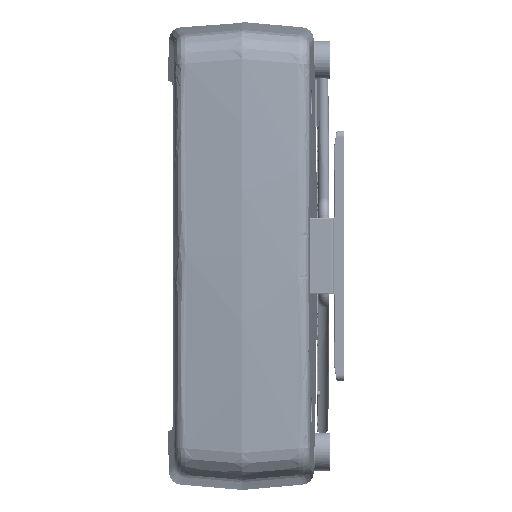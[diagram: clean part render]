
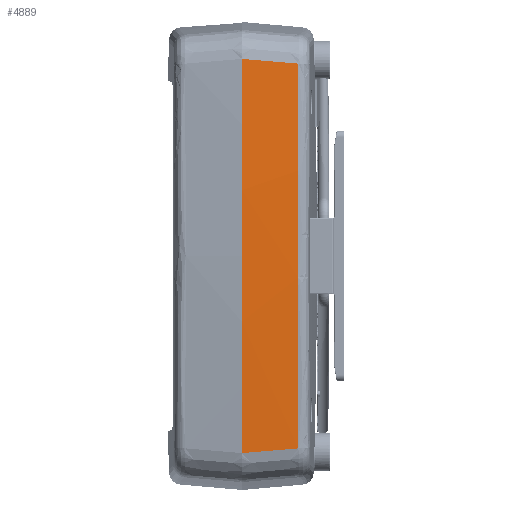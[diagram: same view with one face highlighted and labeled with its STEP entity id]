
A CAD part, left-side view. The second image highlights one B-rep face of the part: STEP entity #4889.
In plain terms, the highlighted conical face has half-angle 5 degrees and reference radius 762 mm.
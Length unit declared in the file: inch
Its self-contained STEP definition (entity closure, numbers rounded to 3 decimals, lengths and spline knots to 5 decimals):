
#4889 = ADVANCED_FACE ( 'NONE', ( #266723 ), #325073, .T. ) ;
#18995 = CARTESIAN_POINT ( 'NONE',  ( -2.96911, -0.14894, 1.56178 ) ) ;
#26725 = CIRCLE ( 'NONE', #132712, 30. ) ;
#28574 = ORIENTED_EDGE ( 'NONE', *, *, #216051, .T. ) ;
#57611 = CARTESIAN_POINT ( 'NONE',  ( -3.02369, -0.14633, 0.52059 ) ) ;
#66754 = EDGE_CURVE ( 'NONE', #202725, #228834, #332892, .T. ) ;
#77509 = CARTESIAN_POINT ( 'NONE',  ( -2.99456, 0.15702, -1.58761 ) ) ;
#130774 = VERTEX_POINT ( 'NONE', #398000 ) ;
#131529 = DIRECTION ( 'NONE',  ( 0., 0., 1. ) ) ;
#132712 = AXIS2_PLACEMENT_3D ( 'NONE', #345157, #260119, #131529 ) ;
#142487 = B_SPLINE_CURVE_WITH_KNOTS ( 'NONE', 3,
 ( #18995, #145465, #147538, #369351 ),
 .UNSPECIFIED., .F., .F.,
 ( 4, 4 ),
 ( 0.00222, 0.01396 ),
 .UNSPECIFIED. ) ;
#143831 = CARTESIAN_POINT ( 'NONE',  ( -3.00727, 0.31, -1.60053 ) ) ;
#145465 = CARTESIAN_POINT ( 'NONE',  ( -2.98184, 0.00404, 1.5747 ) ) ;
#147538 = CARTESIAN_POINT ( 'NONE',  ( -2.99456, 0.15702, 1.58761 ) ) ;
#147757 = EDGE_CURVE ( 'NONE', #228834, #130774, #142487, .T. ) ;
#157074 = CARTESIAN_POINT ( 'NONE',  ( -2.96911, -0.14894, 1.56178 ) ) ;
#163548 = EDGE_LOOP ( 'NONE', ( #28574, #397545, #330371, #207645 ) ) ;
#170482 = CARTESIAN_POINT ( 'NONE',  ( -2.96911, -0.14894, 1.56178 ) ) ;
#180051 = CARTESIAN_POINT ( 'NONE',  ( -3.02369, -0.14633, -0.52059 ) ) ;
#202725 = VERTEX_POINT ( 'NONE', #334708 ) ;
#207645 = ORIENTED_EDGE ( 'NONE', *, *, #346069, .F. ) ;
#216051 = EDGE_CURVE ( 'NONE', #278445, #202725, #392585, .T. ) ;
#228834 = VERTEX_POINT ( 'NONE', #170482 ) ;
#260119 = DIRECTION ( 'NONE',  ( 0., 1., 0. ) ) ;
#266723 = FACE_OUTER_BOUND ( 'NONE', #163548, .T. ) ;
#270315 = CARTESIAN_POINT ( 'NONE',  ( -2.96911, -0.14894, -1.56178 ) ) ;
#278445 = VERTEX_POINT ( 'NONE', #302547 ) ;
#291935 = AXIS2_PLACEMENT_3D ( 'NONE', #391085, #399296, #335015 ) ;
#302547 = CARTESIAN_POINT ( 'NONE',  ( -3.00727, 0.31, -1.60053 ) ) ;
#314678 = CARTESIAN_POINT ( 'NONE',  ( -2.96911, -0.14894, -1.56178 ) ) ;
#325073 = CONICAL_SURFACE ( 'NONE', #291935, 30., 0.087 ) ;
#330371 = ORIENTED_EDGE ( 'NONE', *, *, #147757, .T. ) ;
#332892 = B_SPLINE_CURVE_WITH_KNOTS ( 'NONE', 3,
 ( #314678, #180051, #57611, #157074 ),
 .UNSPECIFIED., .F., .F.,
 ( 4, 4 ),
 ( 0., 0.07934 ),
 .UNSPECIFIED. ) ;
#334708 = CARTESIAN_POINT ( 'NONE',  ( -2.96911, -0.14894, -1.56178 ) ) ;
#335015 = DIRECTION ( 'NONE',  ( 0., 0., 1. ) ) ;
#345157 = CARTESIAN_POINT ( 'NONE',  ( 26.95, 0.31, 0. ) ) ;
#346069 = EDGE_CURVE ( 'NONE', #278445, #130774, #26725, .T. ) ;
#369351 = CARTESIAN_POINT ( 'NONE',  ( -3.00727, 0.31, 1.60053 ) ) ;
#369746 = CARTESIAN_POINT ( 'NONE',  ( -2.98184, 0.00404, -1.5747 ) ) ;
#391085 = CARTESIAN_POINT ( 'NONE',  ( 26.95, 0.31, 0. ) ) ;
#392585 = B_SPLINE_CURVE_WITH_KNOTS ( 'NONE', 3,
 ( #143831, #77509, #369746, #270315 ),
 .UNSPECIFIED., .F., .F.,
 ( 4, 4 ),
 ( 0., 0.01174 ),
 .UNSPECIFIED. ) ;
#397545 = ORIENTED_EDGE ( 'NONE', *, *, #66754, .T. ) ;
#398000 = CARTESIAN_POINT ( 'NONE',  ( -3.00727, 0.31, 1.60053 ) ) ;
#399296 = DIRECTION ( 'NONE',  ( 0., 1., 0. ) ) ;
